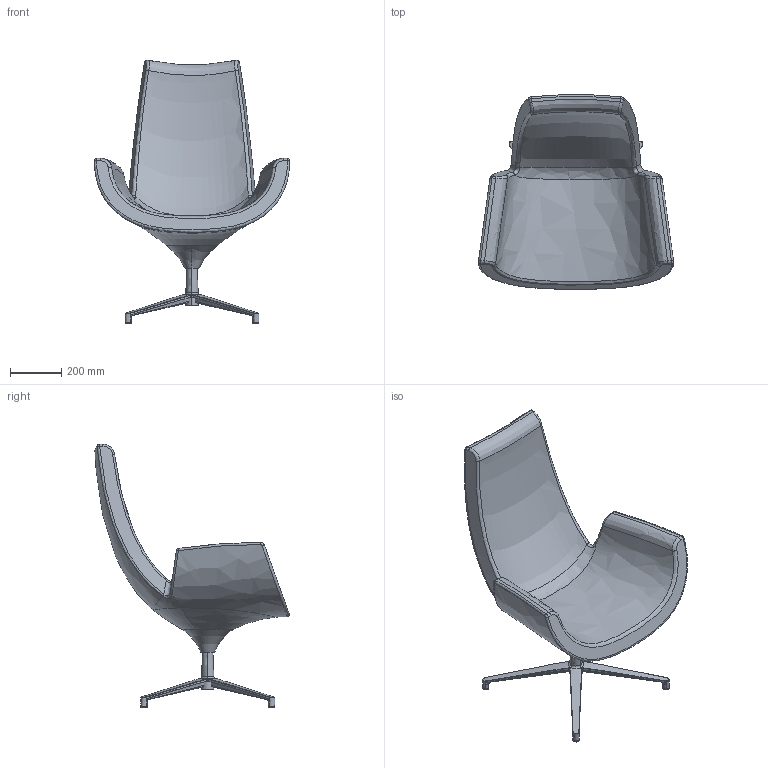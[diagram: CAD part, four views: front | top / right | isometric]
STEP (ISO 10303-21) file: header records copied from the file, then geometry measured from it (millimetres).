
FILE_DESCRIPTION(/* description */ (''),/* implementation_level */ '2;1');
FILE_NAME(/* name */ 'RELAXV~1',/* time_stamp */ '2016-05-11T14:28:37+02:00',/* author */ (''),/* organization */ (''),/* preprocessor_version */ 'ST-DEVELOPER v15',/* originating_system */ '',/* authorisation */ '');
FILE_SCHEMA (('CONFIG_CONTROL_DESIGN'));
Length unit declared in the file: millimetre
Products named in the file (1): Document
Bounding box: 759.09 x 755.7 x 1024.58 mm (x, y, z)
Volume: 49742612.7 mm3; surface area: 1838410.1 mm2
Topology: 1 solids, 7 shells, 187 faces, 432 edges, 251 vertices
Faces by surface type: bspline 164, plane 23
Entity records: 13674 total; most frequent: CARTESIAN_POINT 11202, ORIENTED_EDGE 800, EDGE_CURVE 429, VERTEX_POINT 245, B_SPLINE_CURVE_WITH_KNOTS 194, ADVANCED_FACE 187, FACE_OUTER_BOUND 187, EDGE_LOOP 187
